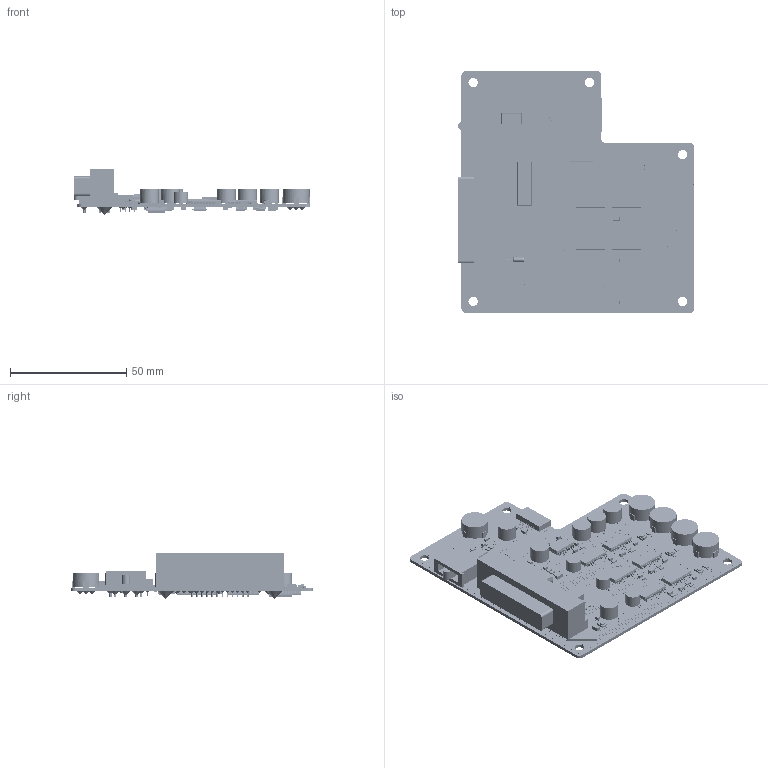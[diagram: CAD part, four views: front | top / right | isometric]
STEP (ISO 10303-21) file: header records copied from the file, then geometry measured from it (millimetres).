
FILE_DESCRIPTION(('CATIA V5 STEP Exchange'),'2;1');
FILE_NAME('C:\Users\furuta\Desktop\Product2.stp','2015-06-18T08:02:47+00:00',('none'),('none'),'CATIA Version 5-6 Release 2013 SP5','CATIA V5 STEP AP203','none');
FILE_SCHEMA(('CONFIG_CONTROL_DESIGN'));
Products named in the file (3): Product2; Parts_A; Parts_B
Assembly tree (166 placements, depth 3):
  Product2
    #57
    #5956
    #283313
    #545776
    #631751
    #698046
    Parts_A
      #702034  x6
      #702479  x24
      #702999  x3
      #703573  x3
      #704312
      #705321  x5
      #706111
      #710158
      #712354
      #712874
      #713397
      #718377  x6
      #724560
      #730824
      #735804
      #736411  x3
      #737558  x25
      #738228  x4
      #739355
    Parts_B
      #702479  x24
      #740632  x6
      #741581  x4
      #742461  x2
      #746877  x3
      #751902
      #756882  x4
      #737558  x25
Bounding box: 101.63 x 104 x 19.9 mm (x, y, z)
Volume: 35182.7 mm3; surface area: 94935.8 mm2
Topology: 2170 solids, 2170 shells, 39229 faces, 104702 edges, 69659 vertices
Faces by surface type: plane 25787, cylinder 13280, cone 158, torus 4
Entity records: 759696 total; most frequent: ORIENTED_EDGE 190302, CARTESIAN_POINT 114528, DIRECTION 95827, EDGE_CURVE 56856, VECTOR 41018, LINE 41018, VERTEX_POINT 37903, EDGE_LOOP 36286
